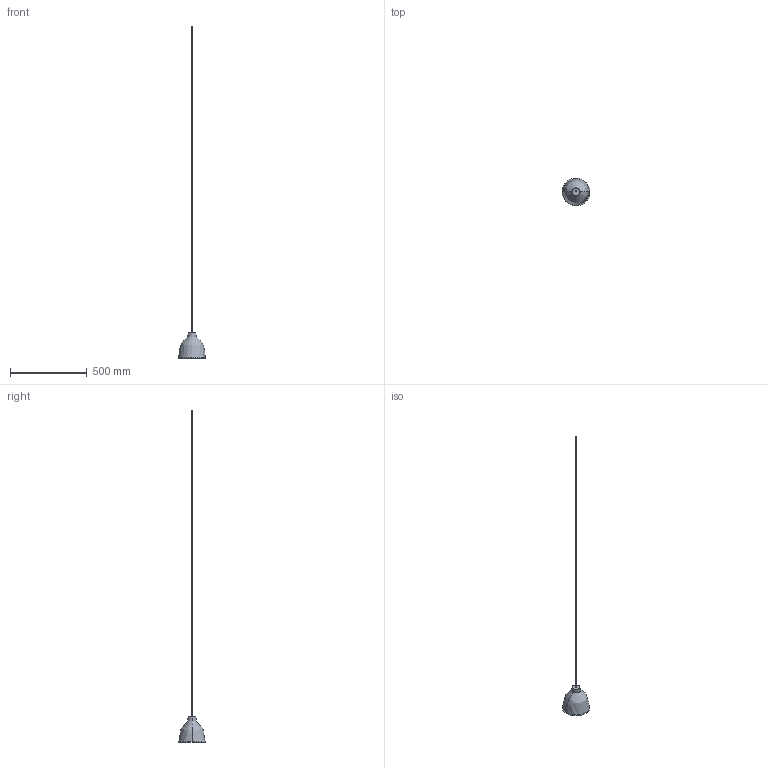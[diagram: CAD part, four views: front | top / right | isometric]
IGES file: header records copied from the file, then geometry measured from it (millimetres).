
Global section: file name: /Users/064_p/Desktop/3d data_02/ILKW_WORKSHOP18_Pendant_3D.igs; native system: Rhinoceros ( Jul  7 2025 ); preprocessor: Trout Lake IGES 012 Jul  7 2025; date: 260828.090221; units: millimetre
Bounding box: 180.73 x 180.64 x 2163.05 mm (x, y, z)
Surface area: 130234.8 mm2 (no closed solid volume)
Topology: 0 solids, 0 shells, 16 faces, 73 edges, 72 vertices
Faces by surface type: bspline 16
